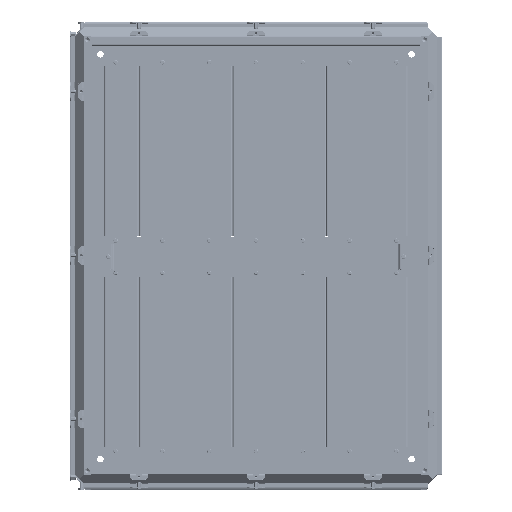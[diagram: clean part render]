
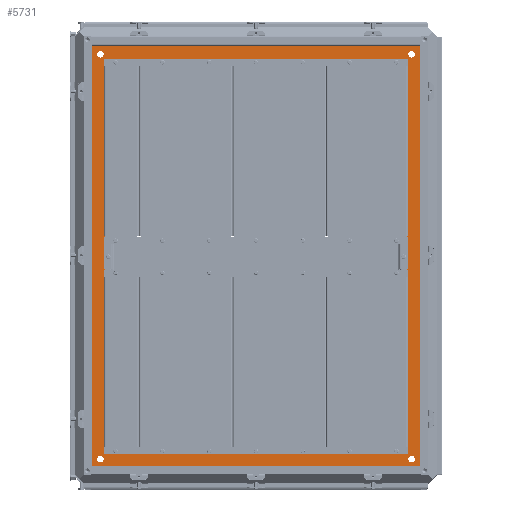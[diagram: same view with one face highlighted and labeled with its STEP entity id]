
A CAD part, top view. The second image highlights one B-rep face of the part: STEP entity #5731.
In plain terms, the highlighted planar face has unit normal (0, 0, 1).
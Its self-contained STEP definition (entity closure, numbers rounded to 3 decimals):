
#5731=ADVANCED_FACE('',(#20087,#20089,#20091,#20093,#20095,#20097),#20099,.F.);
#20087=FACE_BOUND('',#20088,.T.);
#20088=EDGE_LOOP('',(#132261,#132262,#132263,#132264));
#20089=FACE_BOUND('',#20090,.T.);
#20090=EDGE_LOOP('',(#132265,#132266,#132267,#132268));
#20091=FACE_BOUND('',#20092,.T.);
#20092=EDGE_LOOP('',(#132269));
#20093=FACE_BOUND('',#20094,.T.);
#20094=EDGE_LOOP('',(#132270));
#20095=FACE_BOUND('',#20096,.T.);
#20096=EDGE_LOOP('',(#132271));
#20097=FACE_BOUND('',#20098,.T.);
#20098=EDGE_LOOP('',(#132272));
#20099=PLANE('',#20100);
#20100=AXIS2_PLACEMENT_3D('',#20101,#20102,#20103);
#20101=CARTESIAN_POINT('',(0.,0.,-47.5));
#20102=DIRECTION('',(0.,0.,-1.));
#20103=DIRECTION('',(0.,1.,0.));
#132261=ORIENTED_EDGE('',*,*,#200035,.F.);
#132262=ORIENTED_EDGE('',*,*,#200036,.F.);
#132263=ORIENTED_EDGE('',*,*,#200037,.T.);
#132264=ORIENTED_EDGE('',*,*,#200038,.T.);
#132265=ORIENTED_EDGE('',*,*,#200039,.T.);
#132266=ORIENTED_EDGE('',*,*,#200040,.F.);
#132267=ORIENTED_EDGE('',*,*,#200041,.F.);
#132268=ORIENTED_EDGE('',*,*,#200042,.F.);
#132269=ORIENTED_EDGE('',*,*,#200043,.T.);
#132270=ORIENTED_EDGE('',*,*,#200044,.F.);
#132271=ORIENTED_EDGE('',*,*,#200045,.F.);
#132272=ORIENTED_EDGE('',*,*,#200046,.T.);
#200035=EDGE_CURVE('',#234870,#234871,#234872,.F.);
#200036=EDGE_CURVE('',#234873,#234870,#234874,.F.);
#200037=EDGE_CURVE('',#234873,#234875,#234876,.F.);
#200038=EDGE_CURVE('',#234875,#234871,#234877,.F.);
#200039=EDGE_CURVE('',#234878,#234879,#234880,.F.);
#200040=EDGE_CURVE('',#234881,#234879,#234882,.F.);
#200041=EDGE_CURVE('',#234883,#234881,#234884,.F.);
#200042=EDGE_CURVE('',#234878,#234883,#234885,.F.);
#200043=EDGE_CURVE('',#234886,#234886,#234887,.T.);
#200044=EDGE_CURVE('',#234888,#234888,#234889,.T.);
#200045=EDGE_CURVE('',#234890,#234890,#234891,.T.);
#200046=EDGE_CURVE('',#234892,#234892,#234893,.T.);
#234870=VERTEX_POINT('',#295487);
#234871=VERTEX_POINT('',#295488);
#234872=LINE('',#295489,#295490);
#234873=VERTEX_POINT('',#295492);
#234874=LINE('',#295493,#295494);
#234875=VERTEX_POINT('',#295496);
#234876=LINE('',#295497,#295498);
#234877=LINE('',#295500,#295501);
#234878=VERTEX_POINT('',#295503);
#234879=VERTEX_POINT('',#295504);
#234880=LINE('',#295505,#295506);
#234881=VERTEX_POINT('',#295508);
#234882=LINE('',#295509,#295510);
#234883=VERTEX_POINT('',#295512);
#234884=LINE('',#295513,#295514);
#234885=LINE('',#295516,#295517);
#234886=VERTEX_POINT('',#295519);
#234887=CIRCLE('',#295520,7.);
#234888=VERTEX_POINT('',#295524);
#234889=CIRCLE('',#295525,7.);
#234890=VERTEX_POINT('',#295529);
#234891=CIRCLE('',#295530,7.);
#234892=VERTEX_POINT('',#295534);
#234893=CIRCLE('',#295535,7.);
#295487=CARTESIAN_POINT('',(-1.6,1.6,-47.5));
#295488=CARTESIAN_POINT('',(-700.4,1.6,-47.5));
#295489=CARTESIAN_POINT('',(-700.4,1.6,-47.5));
#295490=VECTOR('',#295491,1.);
#295491=DIRECTION('',(1.,0.,0.));
#295492=CARTESIAN_POINT('',(-1.6,900.4,-47.5));
#295493=CARTESIAN_POINT('',(-1.6,1.6,-47.5));
#295494=VECTOR('',#295495,1.);
#295495=DIRECTION('',(0.,1.,0.));
#295496=CARTESIAN_POINT('',(-700.4,900.4,-47.5));
#295497=CARTESIAN_POINT('',(-700.4,900.4,-47.5));
#295498=VECTOR('',#295499,1.);
#295499=DIRECTION('',(1.,0.,0.));
#295500=CARTESIAN_POINT('',(-700.4,1.6,-47.5));
#295501=VECTOR('',#295502,1.);
#295502=DIRECTION('',(0.,1.,0.));
#295503=CARTESIAN_POINT('',(-39.4,39.4,-47.5));
#295504=CARTESIAN_POINT('',(-662.6,39.4,-47.5));
#295505=CARTESIAN_POINT('',(-662.6,39.4,-47.5));
#295506=VECTOR('',#295507,1.);
#295507=DIRECTION('',(1.,0.,0.));
#295508=CARTESIAN_POINT('',(-662.6,862.6,-47.5));
#295509=CARTESIAN_POINT('',(-662.6,39.4,-47.5));
#295510=VECTOR('',#295511,1.);
#295511=DIRECTION('',(0.,1.,0.));
#295512=CARTESIAN_POINT('',(-39.4,862.6,-47.5));
#295513=CARTESIAN_POINT('',(-662.6,862.6,-47.5));
#295514=VECTOR('',#295515,1.);
#295515=DIRECTION('',(1.,0.,0.));
#295516=CARTESIAN_POINT('',(-39.4,862.6,-47.5));
#295517=VECTOR('',#295518,1.);
#295518=DIRECTION('',(0.,-1.,0.));
#295519=CARTESIAN_POINT('',(-18.5,25.5,-47.5));
#295520=AXIS2_PLACEMENT_3D('',#295521,#295522,#295523);
#295521=CARTESIAN_POINT('',(-18.5,18.5,-47.5));
#295522=DIRECTION('',(0.,0.,-1.));
#295523=DIRECTION('',(0.,1.,0.));
#295524=CARTESIAN_POINT('',(-683.5,25.5,-47.5));
#295525=AXIS2_PLACEMENT_3D('',#295526,#295527,#295528);
#295526=CARTESIAN_POINT('',(-683.5,18.5,-47.5));
#295527=DIRECTION('',(0.,0.,1.));
#295528=DIRECTION('',(0.,1.,0.));
#295529=CARTESIAN_POINT('',(-18.5,876.5,-47.5));
#295530=AXIS2_PLACEMENT_3D('',#295531,#295532,#295533);
#295531=CARTESIAN_POINT('',(-18.5,883.5,-47.5));
#295532=DIRECTION('',(0.,0.,1.));
#295533=DIRECTION('',(0.,-1.,0.));
#295534=CARTESIAN_POINT('',(-683.5,876.5,-47.5));
#295535=AXIS2_PLACEMENT_3D('',#295536,#295537,#295538);
#295536=CARTESIAN_POINT('',(-683.5,883.5,-47.5));
#295537=DIRECTION('',(0.,0.,-1.));
#295538=DIRECTION('',(0.,-1.,0.));
